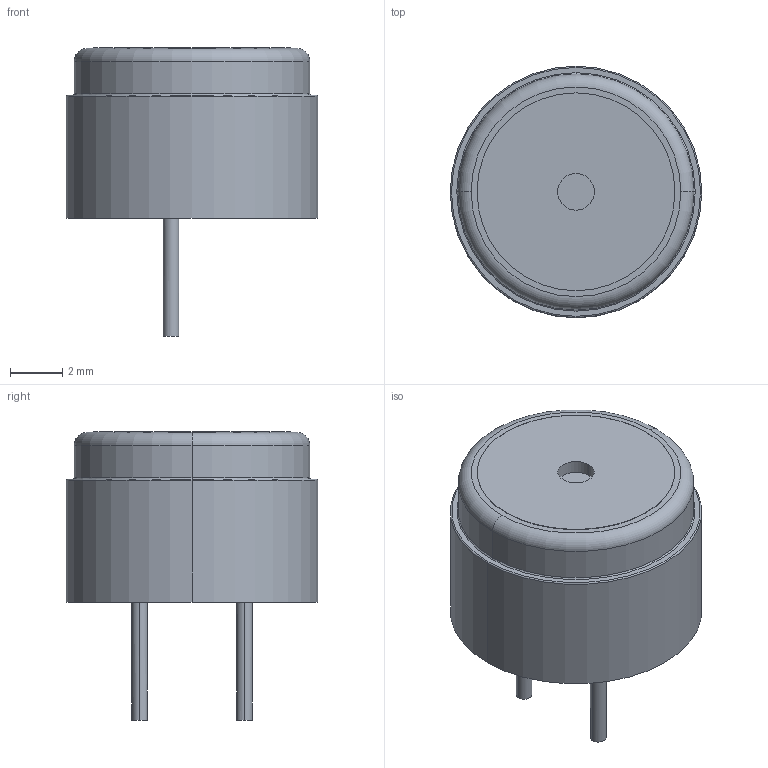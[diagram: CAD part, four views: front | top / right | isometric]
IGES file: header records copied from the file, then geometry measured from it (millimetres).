
Global section: file name: No Iges File Name specified; native system: AutoDesk Inventor R12.0; preprocessor: AutoDesk Inventor Iges Exporter R12.0; date: 20090223.141152; units: millimetre
Bounding box: 9.6 x 9.6 x 11 mm (x, y, z)
Volume: 145.7 mm3; surface area: 738.6 mm2
Topology: 1 solids, 1 shells, 45 faces, 96 edges, 61 vertices
Faces by surface type: cylinder 16, plane 11, revolution 8, bspline 6, torus 4
